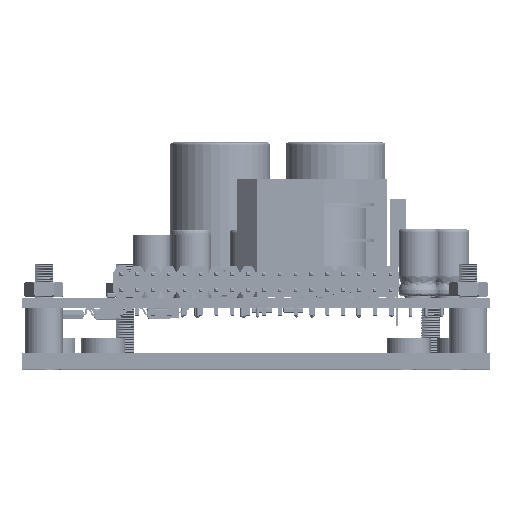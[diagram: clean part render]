
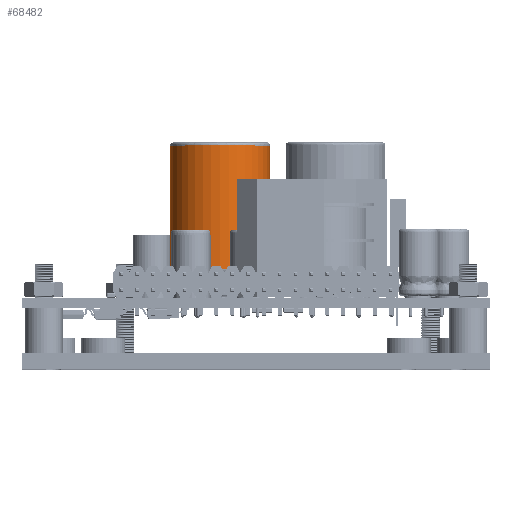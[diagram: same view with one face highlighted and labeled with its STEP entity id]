
A CAD part, top view. The second image highlights one B-rep face of the part: STEP entity #68482.
In plain terms, the highlighted cylindrical face has radius 8 mm (diameter 16 mm), a partial arc.
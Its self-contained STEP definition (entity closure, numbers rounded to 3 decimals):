
#695 = AXIS2_PLACEMENT_3D ( 'NONE', #24386, #96771, #79339 ) ;
#8214 = DIRECTION ( 'NONE',  ( -1., 0., 0. ) ) ;
#8472 = CARTESIAN_POINT ( 'NONE',  ( 8., 0., 25. ) ) ;
#12494 = CARTESIAN_POINT ( 'NONE',  ( -8., 0., 24.5 ) ) ;
#13118 = CARTESIAN_POINT ( 'NONE',  ( 0., 0., 24.5 ) ) ;
#15496 = EDGE_CURVE ( 'NONE', #38896, #68006, #30226, .T. ) ;
#16377 = EDGE_CURVE ( 'NONE', #83108, #84048, #24000, .T. ) ;
#19846 = DIRECTION ( 'NONE',  ( 0., 0., -1. ) ) ;
#23960 = VECTOR ( 'NONE', #19846, 1000. ) ;
#24000 = CIRCLE ( 'NONE', #69050, 8. ) ;
#24386 = CARTESIAN_POINT ( 'NONE',  ( 0., 0., 4.656 ) ) ;
#30226 = CIRCLE ( 'NONE', #695, 8. ) ;
#35190 = AXIS2_PLACEMENT_3D ( 'NONE', #53360, #62836, #8214 ) ;
#35752 = DIRECTION ( 'NONE',  ( 0., 0., -1. ) ) ;
#37763 = EDGE_LOOP ( 'NONE', ( #49325, #52483, #69732, #59604 ) ) ;
#38896 = VERTEX_POINT ( 'NONE', #88850 ) ;
#49325 = ORIENTED_EDGE ( 'NONE', *, *, #16377, .T. ) ;
#52483 = ORIENTED_EDGE ( 'NONE', *, *, #72129, .T. ) ;
#53360 = CARTESIAN_POINT ( 'NONE',  ( 0., 0., 25. ) ) ;
#55013 = CARTESIAN_POINT ( 'NONE',  ( -8., 0., 4.656 ) ) ;
#55763 = CARTESIAN_POINT ( 'NONE',  ( 8., 0., 24.5 ) ) ;
#59604 = ORIENTED_EDGE ( 'NONE', *, *, #103391, .F. ) ;
#62836 = DIRECTION ( 'NONE',  ( 0., 0., -1. ) ) ;
#68006 = VERTEX_POINT ( 'NONE', #55013 ) ;
#68482 = ADVANCED_FACE ( 'NONE', ( #93148 ), #111433, .T. ) ;
#69050 = AXIS2_PLACEMENT_3D ( 'NONE', #13118, #75178, #93772 ) ;
#69732 = ORIENTED_EDGE ( 'NONE', *, *, #15496, .T. ) ;
#72129 = EDGE_CURVE ( 'NONE', #84048, #38896, #96691, .T. ) ;
#75178 = DIRECTION ( 'NONE',  ( 0., 0., -1. ) ) ;
#79339 = DIRECTION ( 'NONE',  ( -1., 0., 0. ) ) ;
#83108 = VERTEX_POINT ( 'NONE', #12494 ) ;
#84048 = VERTEX_POINT ( 'NONE', #55763 ) ;
#88850 = CARTESIAN_POINT ( 'NONE',  ( 8., 0., 4.656 ) ) ;
#91802 = CARTESIAN_POINT ( 'NONE',  ( -8., 0., 25. ) ) ;
#93148 = FACE_OUTER_BOUND ( 'NONE', #37763, .T. ) ;
#93772 = DIRECTION ( 'NONE',  ( -1., 0., 0. ) ) ;
#96691 = LINE ( 'NONE', #8472, #114933 ) ;
#96771 = DIRECTION ( 'NONE',  ( 0., 0., 1. ) ) ;
#103391 = EDGE_CURVE ( 'NONE', #83108, #68006, #115858, .T. ) ;
#111433 = CYLINDRICAL_SURFACE ( 'NONE', #35190, 8. ) ;
#114933 = VECTOR ( 'NONE', #35752, 1000. ) ;
#115858 = LINE ( 'NONE', #91802, #23960 ) ;
